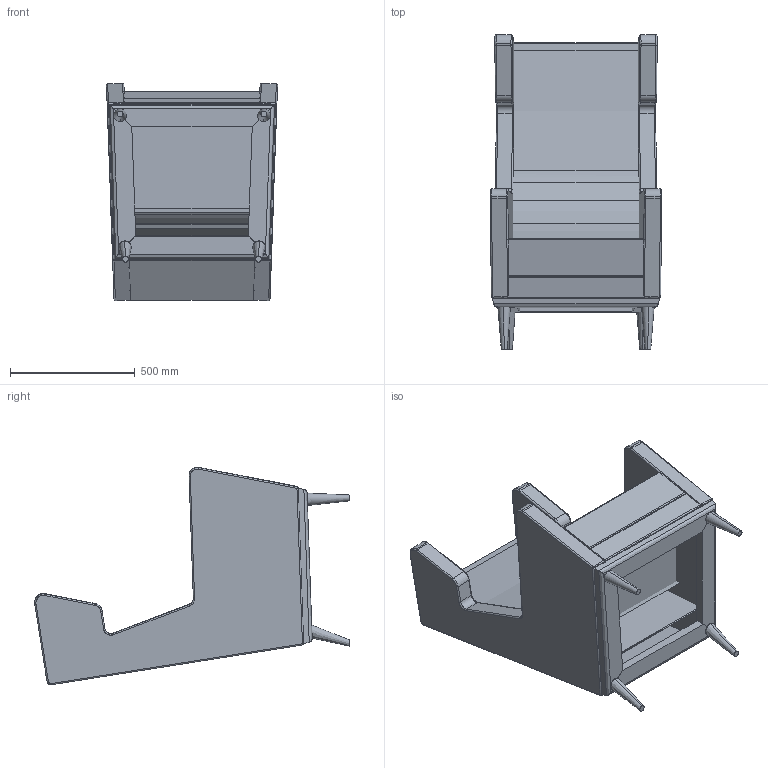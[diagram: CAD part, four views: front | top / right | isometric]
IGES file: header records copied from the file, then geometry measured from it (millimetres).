
Start section: SolidWorks IGES file using analytic representation for surfaces
Global section: file name: C:\Users\adao\Documents\Trab Adao\Desenho técnico PRODUÇÃO\J M S\Linha GERIATRIA\MORGANA\3D Morgana\Poltrona Morgana SG-854.IGS; native system: SolidWorks 2015; preprocessor: SolidWorks 2015; author: Adao; date: 150925.144125; units: millimetre
Bounding box: 686.71 x 1262.46 x 873.16 mm (x, y, z)
Surface area: 5246436.3 mm2 (no closed solid volume)
Topology: 0 solids, 0 shells, 189 faces, 1822 edges, 1819 vertices
Faces by surface type: revolution 99, bspline 90
